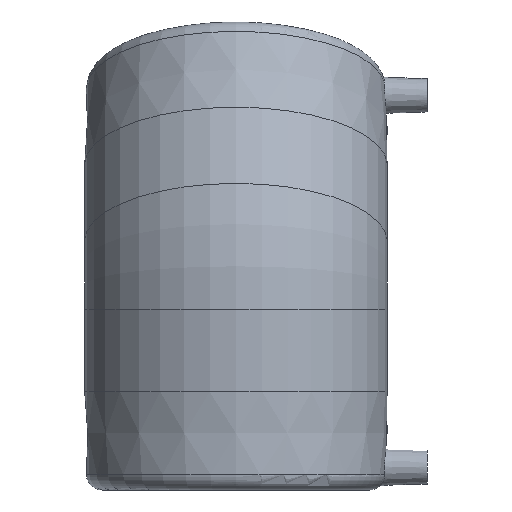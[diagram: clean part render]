
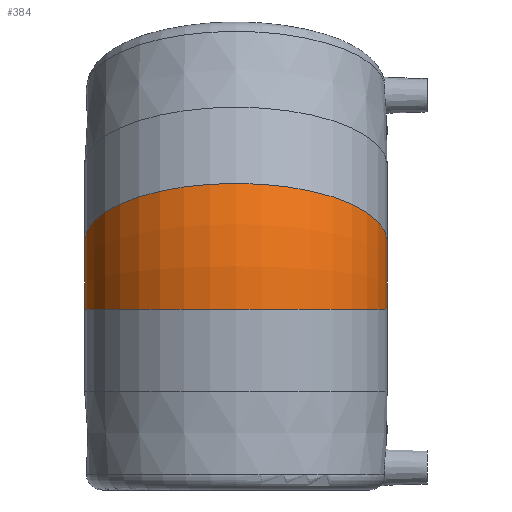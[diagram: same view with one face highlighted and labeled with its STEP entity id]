
A CAD part, left-side view. The second image highlights one B-rep face of the part: STEP entity #384.
In plain terms, the highlighted toroidal (fillet/blend) face has major radius 90.492 mm and minor radius 77 mm.
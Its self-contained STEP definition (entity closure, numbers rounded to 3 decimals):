
#37=TOROIDAL_SURFACE('',#447,90.492,77.);
#99=ORIENTED_EDGE('',*,*,#152,.T.);
#100=ORIENTED_EDGE('',*,*,#154,.F.);
#152=EDGE_CURVE('',#189,#189,#219,.F.);
#154=EDGE_CURVE('',#191,#191,#221,.F.);
#189=VERTEX_POINT('',#701);
#191=VERTEX_POINT('',#707);
#219=CIRCLE('',#444,77.);
#221=CIRCLE('',#448,77.);
#266=EDGE_LOOP('',(#99));
#267=EDGE_LOOP('',(#100));
#327=FACE_BOUND('',#266,.T.);
#328=FACE_BOUND('',#267,.T.);
#384=ADVANCED_FACE('',(#327,#328),#37,.T.);
#444=AXIS2_PLACEMENT_3D('',#700,#540,#541);
#447=AXIS2_PLACEMENT_3D('',#705,#546,#547);
#448=AXIS2_PLACEMENT_3D('',#706,#548,#549);
#540=DIRECTION('',(0.,0.,-1.));
#541=DIRECTION('',(1.,0.,0.));
#546=DIRECTION('',(0.,1.,0.));
#547=DIRECTION('',(0.,0.,1.));
#548=DIRECTION('',(-0.383,0.,-0.924));
#549=DIRECTION('',(0.924,0.,-0.383));
#700=CARTESIAN_POINT('',(0.,0.,-18.));
#701=CARTESIAN_POINT('',(77.,0.,-18.));
#705=CARTESIAN_POINT('',(90.492,0.,-18.));
#706=CARTESIAN_POINT('',(6.888,0.,16.63));
#707=CARTESIAN_POINT('',(78.027,0.,-12.837));
